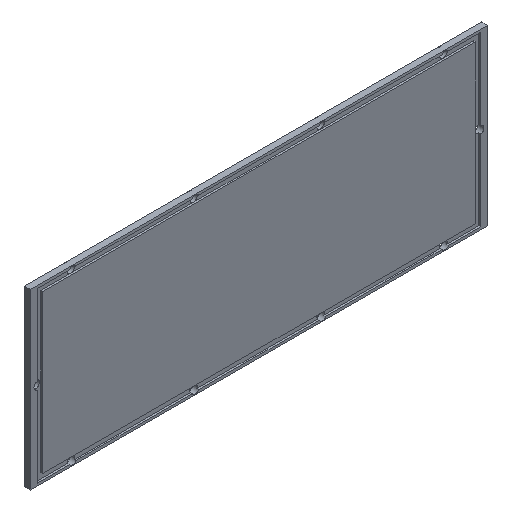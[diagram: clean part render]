
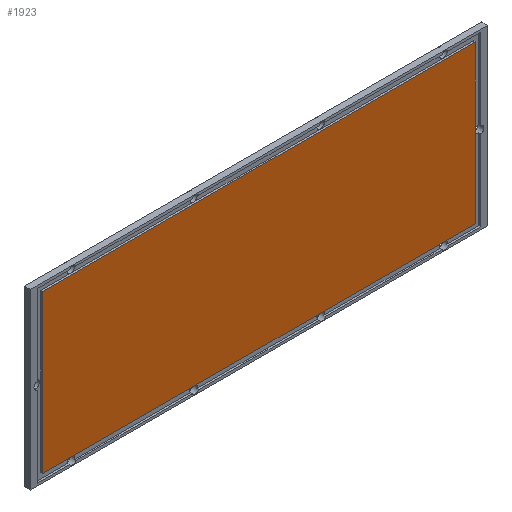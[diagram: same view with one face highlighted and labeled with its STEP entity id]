
A CAD part, isometric view. The second image highlights one B-rep face of the part: STEP entity #1923.
In plain terms, the highlighted planar face has unit normal (0, -1, 0).
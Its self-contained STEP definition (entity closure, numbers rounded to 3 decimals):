
#1760 = PLANE('',#1761);
#1761 = AXIS2_PLACEMENT_3D('',#1762,#1763,#1764);
#1762 = CARTESIAN_POINT('',(-104.8,36.2,7.8));
#1763 = DIRECTION('',(0.,0.,1.));
#1764 = DIRECTION('',(1.,0.,-0.));
#1788 = PLANE('',#1789);
#1789 = AXIS2_PLACEMENT_3D('',#1790,#1791,#1792);
#1790 = CARTESIAN_POINT('',(102.2,36.2,7.5));
#1791 = DIRECTION('',(1.,0.,-0.));
#1792 = DIRECTION('',(0.,0.,1.));
#1816 = PLANE('',#1817);
#1817 = AXIS2_PLACEMENT_3D('',#1818,#1819,#1820);
#1818 = CARTESIAN_POINT('',(-104.8,36.2,82.2));
#1819 = DIRECTION('',(0.,0.,1.));
#1820 = DIRECTION('',(1.,0.,-0.));
#1842 = PLANE('',#1843);
#1843 = AXIS2_PLACEMENT_3D('',#1844,#1845,#1846);
#1844 = CARTESIAN_POINT('',(-102.2,36.2,7.5));
#1845 = DIRECTION('',(1.,0.,-0.));
#1846 = DIRECTION('',(0.,0.,1.));
#1859 = VERTEX_POINT('',#1860);
#1860 = CARTESIAN_POINT('',(-102.2,36.25,82.2));
#1879 = EDGE_CURVE('',#1859,#1880,#1882,.T.);
#1880 = VERTEX_POINT('',#1881);
#1881 = CARTESIAN_POINT('',(-102.2,36.25,7.8));
#1882 = SURFACE_CURVE('',#1883,(#1887,#1893),.PCURVE_S1.);
#1883 = LINE('',#1884,#1885);
#1884 = CARTESIAN_POINT('',(-102.2,36.25,5.75));
#1885 = VECTOR('',#1886,1.);
#1886 = DIRECTION('',(-0.,0.,-1.));
#1887 = PCURVE('',#1842,#1888);
#1888 = DEFINITIONAL_REPRESENTATION('',(#1889),#1892);
#1889 = B_SPLINE_CURVE_WITH_KNOTS('',1,(#1890,#1891),.UNSPECIFIED.,.F.,
  .F.,(2,2),(-76.75,-1.75),.PIECEWISE_BEZIER_KNOTS.);
#1890 = CARTESIAN_POINT('',(75.,-0.05));
#1891 = CARTESIAN_POINT('',(0.,-0.05));
#1892 = ( GEOMETRIC_REPRESENTATION_CONTEXT(2) 
PARAMETRIC_REPRESENTATION_CONTEXT() REPRESENTATION_CONTEXT('2D SPACE',''
  ) );
#1893 = PCURVE('',#1894,#1899);
#1894 = PLANE('',#1895);
#1895 = AXIS2_PLACEMENT_3D('',#1896,#1897,#1898);
#1896 = CARTESIAN_POINT('',(-108.,36.25,4.));
#1897 = DIRECTION('',(-0.,1.,0.));
#1898 = DIRECTION('',(0.,0.,1.));
#1899 = DEFINITIONAL_REPRESENTATION('',(#1900),#1903);
#1900 = B_SPLINE_CURVE_WITH_KNOTS('',1,(#1901,#1902),.UNSPECIFIED.,.F.,
  .F.,(2,2),(-76.75,-1.75),.PIECEWISE_BEZIER_KNOTS.);
#1901 = CARTESIAN_POINT('',(78.5,5.8));
#1902 = CARTESIAN_POINT('',(3.5,5.8));
#1903 = ( GEOMETRIC_REPRESENTATION_CONTEXT(2) 
PARAMETRIC_REPRESENTATION_CONTEXT() REPRESENTATION_CONTEXT('2D SPACE',''
  ) );
#1923 = ADVANCED_FACE('',(#1924),#1894,.F.);
#1924 = FACE_BOUND('',#1925,.F.);
#1925 = EDGE_LOOP('',(#1926,#1949,#1968,#1969));
#1926 = ORIENTED_EDGE('',*,*,#1927,.T.);
#1927 = EDGE_CURVE('',#1928,#1930,#1932,.T.);
#1928 = VERTEX_POINT('',#1929);
#1929 = CARTESIAN_POINT('',(102.2,36.25,82.2));
#1930 = VERTEX_POINT('',#1931);
#1931 = CARTESIAN_POINT('',(102.2,36.25,7.8));
#1932 = SURFACE_CURVE('',#1933,(#1937,#1943),.PCURVE_S1.);
#1933 = LINE('',#1934,#1935);
#1934 = CARTESIAN_POINT('',(102.2,36.25,5.75));
#1935 = VECTOR('',#1936,1.);
#1936 = DIRECTION('',(-0.,0.,-1.));
#1937 = PCURVE('',#1894,#1938);
#1938 = DEFINITIONAL_REPRESENTATION('',(#1939),#1942);
#1939 = B_SPLINE_CURVE_WITH_KNOTS('',1,(#1940,#1941),.UNSPECIFIED.,.F.,
  .F.,(2,2),(-76.75,-1.75),.PIECEWISE_BEZIER_KNOTS.);
#1940 = CARTESIAN_POINT('',(78.5,210.2));
#1941 = CARTESIAN_POINT('',(3.5,210.2));
#1942 = ( GEOMETRIC_REPRESENTATION_CONTEXT(2) 
PARAMETRIC_REPRESENTATION_CONTEXT() REPRESENTATION_CONTEXT('2D SPACE',''
  ) );
#1943 = PCURVE('',#1788,#1944);
#1944 = DEFINITIONAL_REPRESENTATION('',(#1945),#1948);
#1945 = B_SPLINE_CURVE_WITH_KNOTS('',1,(#1946,#1947),.UNSPECIFIED.,.F.,
  .F.,(2,2),(-76.75,-1.75),.PIECEWISE_BEZIER_KNOTS.);
#1946 = CARTESIAN_POINT('',(75.,-0.05));
#1947 = CARTESIAN_POINT('',(0.,-0.05));
#1948 = ( GEOMETRIC_REPRESENTATION_CONTEXT(2) 
PARAMETRIC_REPRESENTATION_CONTEXT() REPRESENTATION_CONTEXT('2D SPACE',''
  ) );
#1949 = ORIENTED_EDGE('',*,*,#1950,.F.);
#1950 = EDGE_CURVE('',#1880,#1930,#1951,.T.);
#1951 = SURFACE_CURVE('',#1952,(#1956,#1962),.PCURVE_S1.);
#1952 = LINE('',#1953,#1954);
#1953 = CARTESIAN_POINT('',(-106.4,36.25,7.8));
#1954 = VECTOR('',#1955,1.);
#1955 = DIRECTION('',(1.,0.,-0.));
#1956 = PCURVE('',#1894,#1957);
#1957 = DEFINITIONAL_REPRESENTATION('',(#1958),#1961);
#1958 = B_SPLINE_CURVE_WITH_KNOTS('',1,(#1959,#1960),.UNSPECIFIED.,.F.,
  .F.,(2,2),(1.6,211.2),.PIECEWISE_BEZIER_KNOTS.);
#1959 = CARTESIAN_POINT('',(3.8,3.2));
#1960 = CARTESIAN_POINT('',(3.8,212.8));
#1961 = ( GEOMETRIC_REPRESENTATION_CONTEXT(2) 
PARAMETRIC_REPRESENTATION_CONTEXT() REPRESENTATION_CONTEXT('2D SPACE',''
  ) );
#1962 = PCURVE('',#1760,#1963);
#1963 = DEFINITIONAL_REPRESENTATION('',(#1964),#1967);
#1964 = B_SPLINE_CURVE_WITH_KNOTS('',1,(#1965,#1966),.UNSPECIFIED.,.F.,
  .F.,(2,2),(1.6,211.2),.PIECEWISE_BEZIER_KNOTS.);
#1965 = CARTESIAN_POINT('',(0.,0.05));
#1966 = CARTESIAN_POINT('',(209.6,0.05));
#1967 = ( GEOMETRIC_REPRESENTATION_CONTEXT(2) 
PARAMETRIC_REPRESENTATION_CONTEXT() REPRESENTATION_CONTEXT('2D SPACE',''
  ) );
#1968 = ORIENTED_EDGE('',*,*,#1879,.F.);
#1969 = ORIENTED_EDGE('',*,*,#1970,.T.);
#1970 = EDGE_CURVE('',#1859,#1928,#1971,.T.);
#1971 = SURFACE_CURVE('',#1972,(#1976,#1982),.PCURVE_S1.);
#1972 = LINE('',#1973,#1974);
#1973 = CARTESIAN_POINT('',(-106.4,36.25,82.2));
#1974 = VECTOR('',#1975,1.);
#1975 = DIRECTION('',(1.,0.,-0.));
#1976 = PCURVE('',#1894,#1977);
#1977 = DEFINITIONAL_REPRESENTATION('',(#1978),#1981);
#1978 = B_SPLINE_CURVE_WITH_KNOTS('',1,(#1979,#1980),.UNSPECIFIED.,.F.,
  .F.,(2,2),(1.6,211.2),.PIECEWISE_BEZIER_KNOTS.);
#1979 = CARTESIAN_POINT('',(78.2,3.2));
#1980 = CARTESIAN_POINT('',(78.2,212.8));
#1981 = ( GEOMETRIC_REPRESENTATION_CONTEXT(2) 
PARAMETRIC_REPRESENTATION_CONTEXT() REPRESENTATION_CONTEXT('2D SPACE',''
  ) );
#1982 = PCURVE('',#1816,#1983);
#1983 = DEFINITIONAL_REPRESENTATION('',(#1984),#1987);
#1984 = B_SPLINE_CURVE_WITH_KNOTS('',1,(#1985,#1986),.UNSPECIFIED.,.F.,
  .F.,(2,2),(1.6,211.2),.PIECEWISE_BEZIER_KNOTS.);
#1985 = CARTESIAN_POINT('',(0.,0.05));
#1986 = CARTESIAN_POINT('',(209.6,0.05));
#1987 = ( GEOMETRIC_REPRESENTATION_CONTEXT(2) 
PARAMETRIC_REPRESENTATION_CONTEXT() REPRESENTATION_CONTEXT('2D SPACE',''
  ) );
